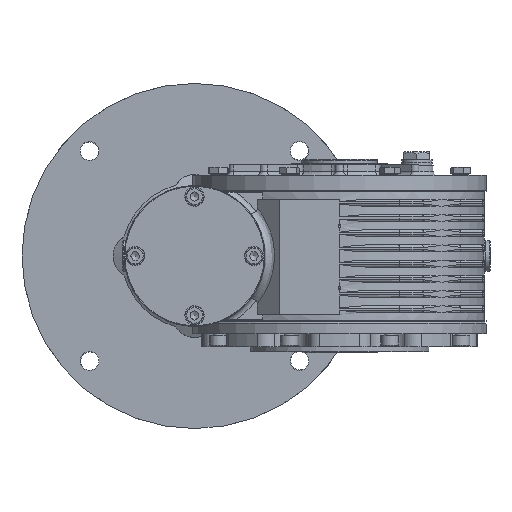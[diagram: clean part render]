
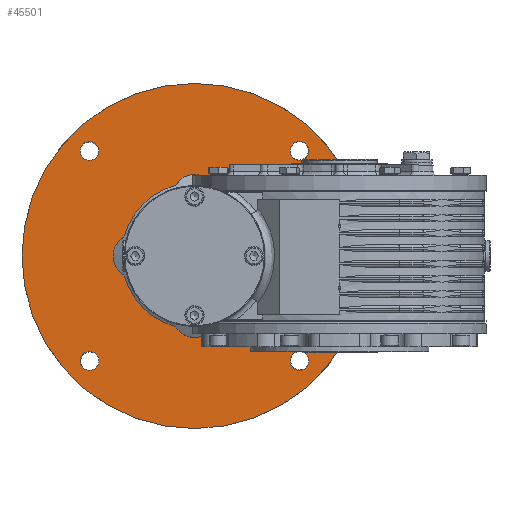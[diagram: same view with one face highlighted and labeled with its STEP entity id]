
A CAD part, left-side view. The second image highlights one B-rep face of the part: STEP entity #45501.
In plain terms, the highlighted planar face has unit normal (-1, 0, 0) as drawn and (0, 0, 1) by its records, which use the part's own axes.
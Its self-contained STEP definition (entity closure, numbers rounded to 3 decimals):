
#43738=CARTESIAN_POINT('',(-82.764,-76.014,11.0));
#43739=VERTEX_POINT('',#43738);
#43740=CARTESIAN_POINT('',(-76.014,-76.014,11.0));
#43741=DIRECTION('',(0.0,0.0,-1.0));
#43742=DIRECTION('',(1.0,0.0,0.0));
#43743=AXIS2_PLACEMENT_3D('',#43740,#43741,#43742);
#43744=CIRCLE('',#43743,6.75);
#43745=EDGE_CURVE('',#43739,#43739,#43744,.T.);
#43758=CARTESIAN_POINT('',(69.264,76.014,11.0));
#43759=VERTEX_POINT('',#43758);
#43760=CARTESIAN_POINT('',(76.014,76.014,11.0));
#43761=DIRECTION('',(0.0,0.0,-1.0));
#43762=DIRECTION('',(1.0,0.0,0.0));
#43763=AXIS2_PLACEMENT_3D('',#43760,#43761,#43762);
#43764=CIRCLE('',#43763,6.75);
#43765=EDGE_CURVE('',#43759,#43759,#43764,.T.);
#43778=CARTESIAN_POINT('',(-82.764,76.014,11.0));
#43779=VERTEX_POINT('',#43778);
#43780=CARTESIAN_POINT('',(-76.014,76.014,11.0));
#43781=DIRECTION('',(0.0,0.0,-1.0));
#43782=DIRECTION('',(1.0,0.0,0.0));
#43783=AXIS2_PLACEMENT_3D('',#43780,#43781,#43782);
#43784=CIRCLE('',#43783,6.75);
#43785=EDGE_CURVE('',#43779,#43779,#43784,.T.);
#43798=CARTESIAN_POINT('',(69.264,-76.014,11.0));
#43799=VERTEX_POINT('',#43798);
#43800=CARTESIAN_POINT('',(76.014,-76.014,11.0));
#43801=DIRECTION('',(0.0,0.0,-1.0));
#43802=DIRECTION('',(1.0,0.0,0.0));
#43803=AXIS2_PLACEMENT_3D('',#43800,#43801,#43802);
#43804=CIRCLE('',#43803,6.75);
#43805=EDGE_CURVE('',#43799,#43799,#43804,.T.);
#45241=CARTESIAN_POINT('',(-13.747,51.186,11.0));
#45242=VERTEX_POINT('',#45241);
#45249=CARTESIAN_POINT('',(-51.186,13.747,11.0));
#45250=VERTEX_POINT('',#45249);
#45251=CARTESIAN_POINT('',(0.0,0.0,11.0));
#45252=DIRECTION('',(0.0,0.0,-1.0));
#45253=DIRECTION('',(-1.0,0.0,0.0));
#45254=AXIS2_PLACEMENT_3D('',#45251,#45252,#45253);
#45255=CIRCLE('',#45254,53.);
#45256=EDGE_CURVE('',#45250,#45242,#45255,.T.);
#45274=CARTESIAN_POINT('',(13.747,51.186,11.0));
#45275=VERTEX_POINT('',#45274);
#45282=CARTESIAN_POINT('',(0.0,43.0,11.0));
#45283=DIRECTION('',(0.0,0.0,-1.0));
#45284=DIRECTION('',(-1.0,0.0,0.0));
#45285=AXIS2_PLACEMENT_3D('',#45282,#45283,#45284);
#45286=CIRCLE('',#45285,16.0);
#45287=EDGE_CURVE('',#45242,#45275,#45286,.T.);
#45299=CARTESIAN_POINT('',(51.186,13.747,11.0));
#45300=VERTEX_POINT('',#45299);
#45307=CARTESIAN_POINT('',(0.0,0.0,11.0));
#45308=DIRECTION('',(0.0,0.0,-1.0));
#45309=DIRECTION('',(-1.0,0.0,0.0));
#45310=AXIS2_PLACEMENT_3D('',#45307,#45308,#45309);
#45311=CIRCLE('',#45310,53.);
#45312=EDGE_CURVE('',#45275,#45300,#45311,.T.);
#45336=CARTESIAN_POINT('',(-51.186,-13.747,11.0));
#45337=VERTEX_POINT('',#45336);
#45344=CARTESIAN_POINT('',(-13.747,-51.186,11.0));
#45345=VERTEX_POINT('',#45344);
#45346=CARTESIAN_POINT('',(0.0,0.0,11.0));
#45347=DIRECTION('',(0.0,0.0,-1.0));
#45348=DIRECTION('',(-1.0,0.0,0.0));
#45349=AXIS2_PLACEMENT_3D('',#45346,#45347,#45348);
#45350=CIRCLE('',#45349,53.);
#45351=EDGE_CURVE('',#45345,#45337,#45350,.T.);
#45368=CARTESIAN_POINT('',(13.747,-51.186,11.0));
#45369=VERTEX_POINT('',#45368);
#45376=CARTESIAN_POINT('',(51.186,-13.747,11.0));
#45377=VERTEX_POINT('',#45376);
#45378=CARTESIAN_POINT('',(0.0,0.0,11.0));
#45379=DIRECTION('',(0.0,0.0,-1.0));
#45380=DIRECTION('',(-1.0,0.0,0.0));
#45381=AXIS2_PLACEMENT_3D('',#45378,#45379,#45380);
#45382=CIRCLE('',#45381,53.);
#45383=EDGE_CURVE('',#45377,#45369,#45382,.T.);
#45401=CARTESIAN_POINT('',(43.0,0.,11.0));
#45402=DIRECTION('',(0.0,0.0,-1.0));
#45403=DIRECTION('',(-1.0,0.0,0.0));
#45404=AXIS2_PLACEMENT_3D('',#45401,#45402,#45403);
#45405=CIRCLE('',#45404,16.0);
#45406=EDGE_CURVE('',#45300,#45377,#45405,.T.);
#45420=CARTESIAN_POINT('',(-43.0,0.,11.0));
#45421=DIRECTION('',(0.0,0.0,-1.0));
#45422=DIRECTION('',(-1.0,0.0,0.0));
#45423=AXIS2_PLACEMENT_3D('',#45420,#45421,#45422);
#45424=CIRCLE('',#45423,16.0);
#45425=EDGE_CURVE('',#45337,#45250,#45424,.T.);
#45439=CARTESIAN_POINT('',(0.,-43.0,11.0));
#45440=DIRECTION('',(0.0,0.0,-1.0));
#45441=DIRECTION('',(-1.0,0.0,0.0));
#45442=AXIS2_PLACEMENT_3D('',#45439,#45440,#45441);
#45443=CIRCLE('',#45442,16.0);
#45444=EDGE_CURVE('',#45369,#45345,#45443,.T.);
#45456=CARTESIAN_POINT('',(125.0,0.,11.0));
#45457=VERTEX_POINT('',#45456);
#45458=CARTESIAN_POINT('',(0.0,0.0,11.0));
#45459=DIRECTION('',(0.0,0.0,-1.0));
#45460=DIRECTION('',(-1.0,0.0,0.0));
#45461=AXIS2_PLACEMENT_3D('',#45458,#45459,#45460);
#45462=CIRCLE('',#45461,125.0);
#45463=EDGE_CURVE('',#45457,#45457,#45462,.T.);
#45471=CARTESIAN_POINT('',(0.0,0.0,11.0));
#45472=DIRECTION('',(0.0,0.0,-1.0));
#45473=DIRECTION('',(-1.0,0.0,0.0));
#45474=AXIS2_PLACEMENT_3D('',#45471,#45472,#45473);
#45475=PLANE('',#45474);
#45476=ORIENTED_EDGE('',*,*,#45463,.F.);
#45477=EDGE_LOOP('',(#45476));
#45478=FACE_OUTER_BOUND('',#45477,.T.);
#45479=ORIENTED_EDGE('',*,*,#43745,.T.);
#45480=EDGE_LOOP('',(#45479));
#45481=FACE_BOUND('',#45480,.T.);
#45482=ORIENTED_EDGE('',*,*,#43765,.T.);
#45483=EDGE_LOOP('',(#45482));
#45484=FACE_BOUND('',#45483,.T.);
#45485=ORIENTED_EDGE('',*,*,#43785,.T.);
#45486=EDGE_LOOP('',(#45485));
#45487=FACE_BOUND('',#45486,.T.);
#45488=ORIENTED_EDGE('',*,*,#43805,.T.);
#45489=EDGE_LOOP('',(#45488));
#45490=FACE_BOUND('',#45489,.T.);
#45491=ORIENTED_EDGE('',*,*,#45383,.T.);
#45492=ORIENTED_EDGE('',*,*,#45444,.T.);
#45493=ORIENTED_EDGE('',*,*,#45351,.T.);
#45494=ORIENTED_EDGE('',*,*,#45425,.T.);
#45495=ORIENTED_EDGE('',*,*,#45256,.T.);
#45496=ORIENTED_EDGE('',*,*,#45287,.T.);
#45497=ORIENTED_EDGE('',*,*,#45312,.T.);
#45498=ORIENTED_EDGE('',*,*,#45406,.T.);
#45499=EDGE_LOOP('',(#45491,#45492,#45493,#45494,#45495,#45496,#45497,#45498));
#45500=FACE_BOUND('',#45499,.T.);
#45501=ADVANCED_FACE('',(#45478,#45481,#45484,#45487,#45490,#45500),#45475,.F.);
